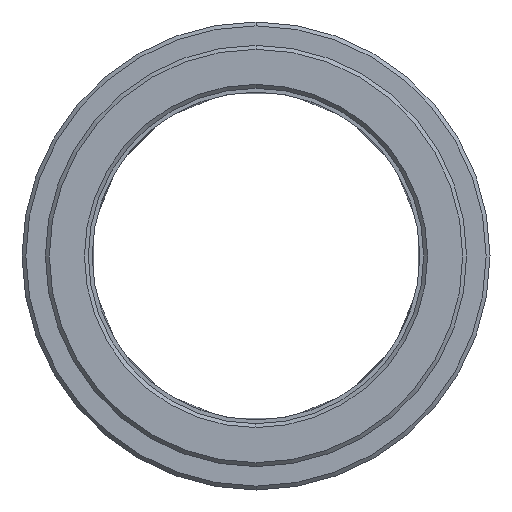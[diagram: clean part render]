
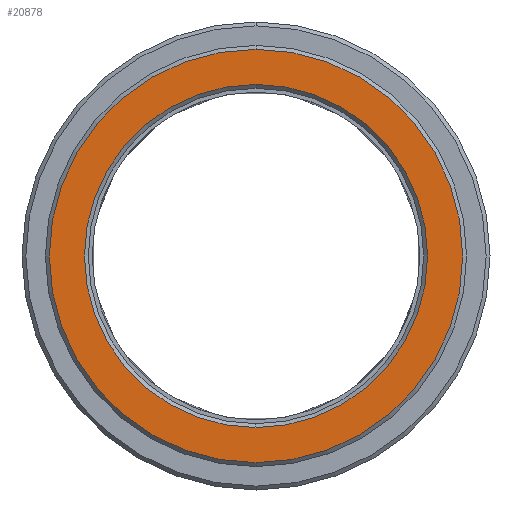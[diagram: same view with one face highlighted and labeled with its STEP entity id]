
A CAD part, left-side view. The second image highlights one B-rep face of the part: STEP entity #20878.
In plain terms, the highlighted planar face has unit normal (-1, 0, 0).
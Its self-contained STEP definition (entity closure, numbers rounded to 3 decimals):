
#8558=CARTESIAN_POINT('',(-10.,0.,
0.));
#8559=DIRECTION('',(1.,0.,0.));
#8560=DIRECTION('',(0.,0.,1.));
#8561=AXIS2_PLACEMENT_3D('',#8558,#8559,#8560);
#8563=CARTESIAN_POINT('',(-10.,0.,
0.));
#8564=DIRECTION('',(1.,0.,0.));
#8565=DIRECTION('',(0.,0.,-1.));
#8566=AXIS2_PLACEMENT_3D('',#8563,#8564,#8565);
#8568=CARTESIAN_POINT('',(-10.,0.,
0.));
#8569=DIRECTION('',(1.,0.,0.));
#8570=DIRECTION('',(0.,0.,1.));
#8571=AXIS2_PLACEMENT_3D('',#8568,#8569,#8570);
#8573=CARTESIAN_POINT('',(-10.,0.,
0.));
#8574=DIRECTION('',(1.,0.,0.));
#8575=DIRECTION('',(0.,0.,-1.));
#8576=AXIS2_PLACEMENT_3D('',#8573,#8574,#8575);
#17944=CARTESIAN_POINT('',(-10.,0.,22.));
#17945=CARTESIAN_POINT('',(-10.,0.,
-22.));
#17946=VERTEX_POINT('',#17944);
#17947=VERTEX_POINT('',#17945);
#17952=CARTESIAN_POINT('',(-10.,0.,26.5));
#17953=CARTESIAN_POINT('',(-10.,0.,
-26.5));
#17954=VERTEX_POINT('',#17952);
#17955=VERTEX_POINT('',#17953);
#20862=CARTESIAN_POINT('',(-10.,0.,0.));
#20863=DIRECTION('',(1.,0.,0.));
#20864=DIRECTION('',(0.,0.,1.));
#20865=AXIS2_PLACEMENT_3D('',#20862,#20863,#20864);
#20866=PLANE('',#20865);
#20868=ORIENTED_EDGE('',*,*,#20867,.T.);
#20870=ORIENTED_EDGE('',*,*,#20869,.T.);
#20871=EDGE_LOOP('',(#20868,#20870));
#20872=FACE_OUTER_BOUND('',#20871,.F.);
#20873=ORIENTED_EDGE('',*,*,#20852,.F.);
#20875=ORIENTED_EDGE('',*,*,#20874,.F.);
#20876=EDGE_LOOP('',(#20873,#20875));
#20877=FACE_BOUND('',#20876,.F.);
#20878=ADVANCED_FACE('',(#20872,#20877),#20866,.F.);
#8562=CIRCLE('',#8561,26.5);
#8567=CIRCLE('',#8566,26.5);
#8572=CIRCLE('',#8571,22.);
#8577=CIRCLE('',#8576,22.);
#20852=EDGE_CURVE('',#17946,#17947,#8572,.T.);
#20867=EDGE_CURVE('',#17954,#17955,#8562,.T.);
#20869=EDGE_CURVE('',#17955,#17954,#8567,.T.);
#20874=EDGE_CURVE('',#17947,#17946,#8577,.T.);
